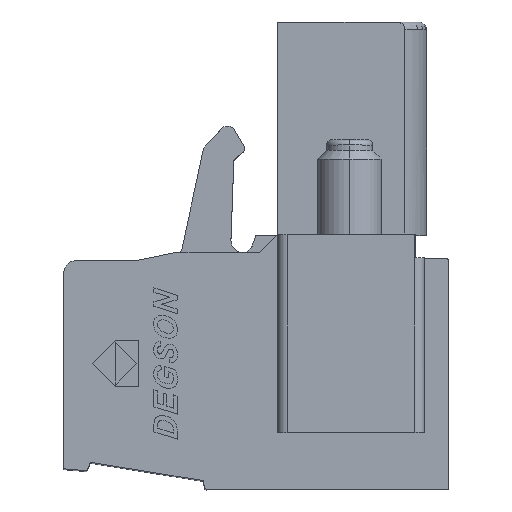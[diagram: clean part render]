
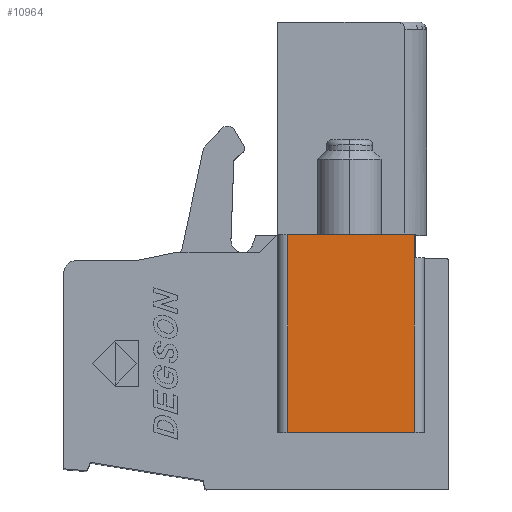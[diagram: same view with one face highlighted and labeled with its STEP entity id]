
A CAD part, top view. The second image highlights one B-rep face of the part: STEP entity #10964.
In plain terms, the highlighted planar face has unit normal (0, 0, 1).
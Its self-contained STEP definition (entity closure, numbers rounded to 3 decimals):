
#2108=DIRECTION('',(1.,0.,0.));
#2109=VECTOR('',#2108,4.94);
#2110=CARTESIAN_POINT('',(8.73,2.2,20.53));
#2111=LINE('',#2110,#2109);
#2131=DIRECTION('',(0.,1.,0.));
#2132=VECTOR('',#2131,7.7);
#2133=CARTESIAN_POINT('',(13.67,2.2,20.53));
#2134=LINE('',#2133,#2132);
#2143=DIRECTION('',(1.,0.,0.));
#2144=VECTOR('',#2143,4.94);
#2145=CARTESIAN_POINT('',(8.73,9.9,20.53));
#2146=LINE('',#2145,#2144);
#2147=DIRECTION('',(0.,-1.,0.));
#2148=VECTOR('',#2147,7.7);
#2149=CARTESIAN_POINT('',(8.73,9.9,20.53));
#2150=LINE('',#2149,#2148);
#7849=CARTESIAN_POINT('',(8.73,2.2,20.53));
#7850=VERTEX_POINT('',#7849);
#7851=CARTESIAN_POINT('',(13.67,2.2,20.53));
#7852=VERTEX_POINT('',#7851);
#7859=CARTESIAN_POINT('',(13.67,9.9,20.53));
#7860=VERTEX_POINT('',#7859);
#7861=CARTESIAN_POINT('',(8.73,9.9,20.53));
#7862=VERTEX_POINT('',#7861);
#10951=CARTESIAN_POINT('',(11.2,6.05,20.53));
#10952=DIRECTION('',(0.,0.,1.));
#10953=DIRECTION('',(-1.,0.,0.));
#10954=AXIS2_PLACEMENT_3D('',#10951,#10952,#10953);
#10955=PLANE('',#10954);
#10956=ORIENTED_EDGE('',*,*,#10907,.F.);
#10958=ORIENTED_EDGE('',*,*,#10957,.F.);
#10960=ORIENTED_EDGE('',*,*,#10959,.T.);
#10961=ORIENTED_EDGE('',*,*,#10941,.F.);
#10962=EDGE_LOOP('',(#10956,#10958,#10960,#10961));
#10963=FACE_OUTER_BOUND('',#10962,.F.);
#10907=EDGE_CURVE('',#7850,#7852,#2111,.T.);
#10941=EDGE_CURVE('',#7852,#7860,#2134,.T.);
#10957=EDGE_CURVE('',#7862,#7850,#2150,.T.);
#10959=EDGE_CURVE('',#7862,#7860,#2146,.T.);
#10964=ADVANCED_FACE('',(#10963),#10955,.T.);
